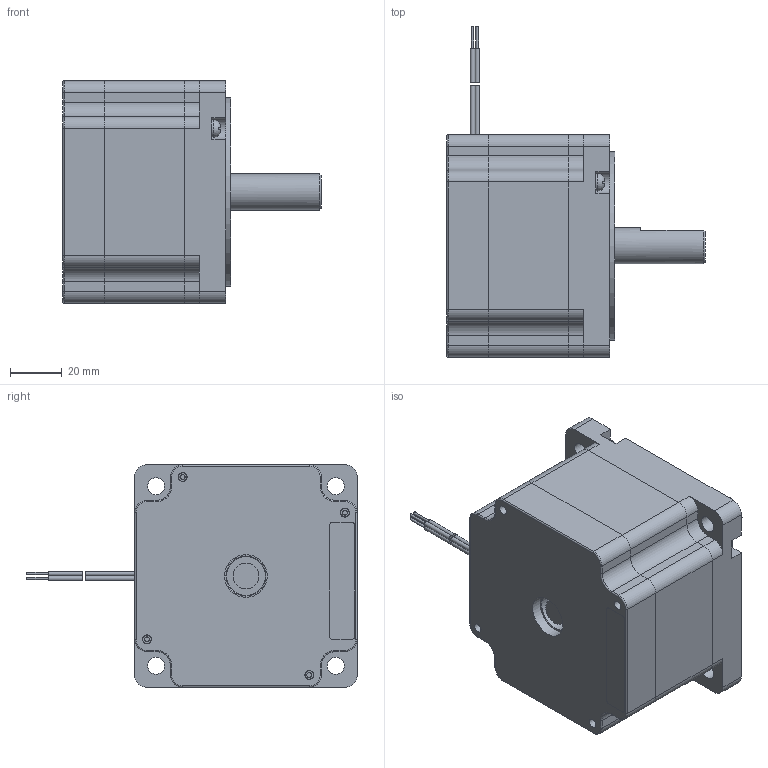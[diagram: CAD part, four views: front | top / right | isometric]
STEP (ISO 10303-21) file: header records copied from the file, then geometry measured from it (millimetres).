
FILE_DESCRIPTION((''),'1');
FILE_NAME('C:/Users/mulloa/Desktop/M-3424-6.3S.stp', '2019-04-02T16:00:41',(''), (''), 'KCM Version 1.1.0.0', 'KeyCreator', '');
FILE_SCHEMA(('AUTOMOTIVE_DESIGN'));
Length unit declared in the file: inch
Bounding box: 100.05 x 127.89 x 86.11 mm (x, y, z)
Volume: 437838.6 mm3; surface area: 109292.2 mm2
Topology: 40 solids, 40 shells, 434 faces, 1008 edges, 709 vertices
Faces by surface type: plane 206, cylinder 147, cone 43, torus 27, extrusion 6, bspline 5
Full cylindrical faces by diameter (mm): 1.016 x4, 1.778 x9, 1.829 x8, 3.429 x4, 4.496 x8, 6.374 x1, 6.502 x4, 6.731 x4, 10 x1, 14 x1, 15 x2, 16.51 x2, 17.78 x1, 35 x4, 50.8 x1, 52.197 x1, 52.3 x2, 52.324 x1, 56.21 x1, 59.004 x1, 73 x1, 76.276 x1, 77.8 x1
Entity records: 13222 total; most frequent: CARTESIAN_POINT 2484, DIRECTION 2259, ORIENTED_EDGE 1944, EDGE_CURVE 972, AXIS2_PLACEMENT_3D 893, VERTEX_POINT 637, EDGE_LOOP 493, VECTOR 473
